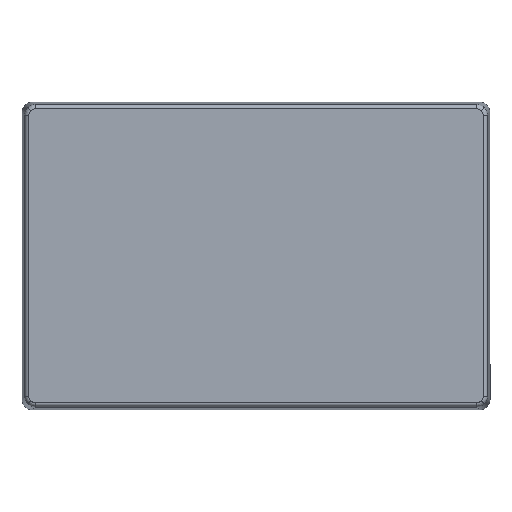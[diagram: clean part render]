
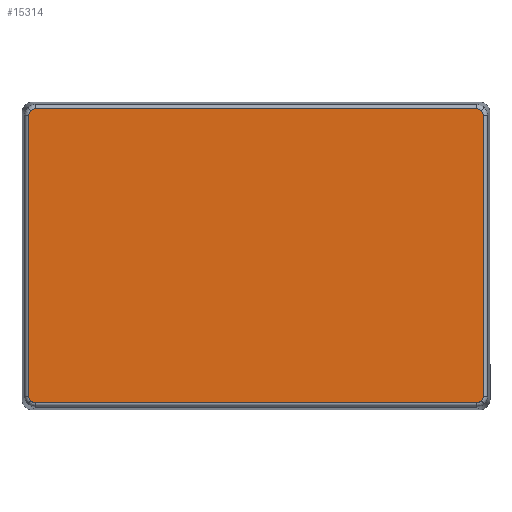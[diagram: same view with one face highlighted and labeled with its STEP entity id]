
A CAD part, top view. The second image highlights one B-rep face of the part: STEP entity #15314.
In plain terms, the highlighted planar face has unit normal (0, 0, 1).
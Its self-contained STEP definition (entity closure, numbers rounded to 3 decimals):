
#547=LINE('',#22787,#1691);
#548=LINE('',#22796,#1692);
#549=LINE('',#22805,#1693);
#550=LINE('',#22814,#1694);
#1691=VECTOR('',#17427,209.434);
#1692=VECTOR('',#17428,133.434);
#1693=VECTOR('',#17429,209.434);
#1694=VECTOR('',#17430,133.434);
#2743=PLANE('',#16267);
#3046=B_SPLINE_CURVE_WITH_KNOTS('',3,(#20478,#20479,#20480,#20481,#20482,
#20483,#20484),.UNSPECIFIED.,.F.,.F.,(4,3,4),(5.498,6.268,
6.283),.UNSPECIFIED.);
#3047=B_SPLINE_CURVE_WITH_KNOTS('',3,(#20513,#20514,#20515,#20516,#20517,
#20518,#20519),.UNSPECIFIED.,.F.,.F.,(4,3,4),(5.498,6.268,
6.283),.UNSPECIFIED.);
#3048=B_SPLINE_CURVE_WITH_KNOTS('',3,(#20548,#20549,#20550,#20551,#20552,
#20553,#20554),.UNSPECIFIED.,.F.,.F.,(4,3,4),(5.498,6.268,
6.283),.UNSPECIFIED.);
#3049=B_SPLINE_CURVE_WITH_KNOTS('',3,(#20583,#20584,#20585,#20586,#20587,
#20588,#20589),.UNSPECIFIED.,.F.,.F.,(4,3,4),(5.498,6.268,
6.283),.UNSPECIFIED.);
#3195=B_SPLINE_CURVE_WITH_KNOTS('',3,(#22789,#22790,#22791,#22792,#22793,
#22794,#22795),.UNSPECIFIED.,.F.,.F.,(4,3,4),(0.,0.769,0.785),
 .UNSPECIFIED.);
#3196=B_SPLINE_CURVE_WITH_KNOTS('',3,(#22798,#22799,#22800,#22801,#22802,
#22803,#22804),.UNSPECIFIED.,.F.,.F.,(4,3,4),(0.,0.769,0.785),
 .UNSPECIFIED.);
#3197=B_SPLINE_CURVE_WITH_KNOTS('',3,(#22807,#22808,#22809,#22810,#22811,
#22812,#22813),.UNSPECIFIED.,.F.,.F.,(4,3,4),(0.,0.769,0.785),
 .UNSPECIFIED.);
#3198=B_SPLINE_CURVE_WITH_KNOTS('',3,(#22815,#22816,#22817,#22818,#22819,
#22820,#22821),.UNSPECIFIED.,.F.,.F.,(4,3,4),(0.,0.769,0.785),
 .UNSPECIFIED.);
#4119=FACE_OUTER_BOUND('',#5065,.T.);
#5065=EDGE_LOOP('',(#10726,#10727,#10728,#10729,#10730,#10731,#10732,#10733,
#10734,#10735,#10736,#10737));
#6502=VERTEX_POINT('',#20475);
#6503=VERTEX_POINT('',#20477);
#6506=VERTEX_POINT('',#20510);
#6507=VERTEX_POINT('',#20512);
#6510=VERTEX_POINT('',#20545);
#6511=VERTEX_POINT('',#20547);
#6514=VERTEX_POINT('',#20580);
#6515=VERTEX_POINT('',#20582);
#6758=VERTEX_POINT('',#22786);
#6759=VERTEX_POINT('',#22788);
#6760=VERTEX_POINT('',#22797);
#6761=VERTEX_POINT('',#22806);
#8071=EDGE_CURVE('',#6503,#6502,#3046,.T.);
#8075=EDGE_CURVE('',#6507,#6506,#3047,.T.);
#8079=EDGE_CURVE('',#6511,#6510,#3048,.T.);
#8083=EDGE_CURVE('',#6515,#6514,#3049,.T.);
#8331=EDGE_CURVE('',#6758,#6503,#547,.T.);
#8332=EDGE_CURVE('',#6502,#6759,#3195,.T.);
#8333=EDGE_CURVE('',#6759,#6507,#548,.T.);
#8334=EDGE_CURVE('',#6506,#6760,#3196,.T.);
#8335=EDGE_CURVE('',#6760,#6515,#549,.T.);
#8336=EDGE_CURVE('',#6514,#6761,#3197,.T.);
#8337=EDGE_CURVE('',#6761,#6511,#550,.T.);
#8338=EDGE_CURVE('',#6510,#6758,#3198,.T.);
#10726=ORIENTED_EDGE('',*,*,#8331,.T.);
#10727=ORIENTED_EDGE('',*,*,#8071,.T.);
#10728=ORIENTED_EDGE('',*,*,#8332,.T.);
#10729=ORIENTED_EDGE('',*,*,#8333,.T.);
#10730=ORIENTED_EDGE('',*,*,#8075,.T.);
#10731=ORIENTED_EDGE('',*,*,#8334,.T.);
#10732=ORIENTED_EDGE('',*,*,#8335,.T.);
#10733=ORIENTED_EDGE('',*,*,#8083,.T.);
#10734=ORIENTED_EDGE('',*,*,#8336,.T.);
#10735=ORIENTED_EDGE('',*,*,#8337,.T.);
#10736=ORIENTED_EDGE('',*,*,#8079,.T.);
#10737=ORIENTED_EDGE('',*,*,#8338,.T.);
#15314=ADVANCED_FACE('',(#4119),#2743,.T.);
#16267=AXIS2_PLACEMENT_3D('',#22785,#17425,#17426);
#17425=DIRECTION('center_axis',(0.,0.,1.));
#17426=DIRECTION('ref_axis',(1.,0.,0.));
#17427=DIRECTION('',(-1.,0.,0.));
#17428=DIRECTION('',(0.,-1.,0.));
#17429=DIRECTION('',(1.,0.,0.));
#17430=DIRECTION('',(0.,1.,0.));
#20475=CARTESIAN_POINT('',(-106.838,68.838,51.));
#20477=CARTESIAN_POINT('',(-104.717,69.716,51.));
#20478=CARTESIAN_POINT('Ctrl Pts',(-104.717,69.716,51.));
#20479=CARTESIAN_POINT('Ctrl Pts',(-105.467,69.716,51.));
#20480=CARTESIAN_POINT('Ctrl Pts',(-106.266,69.393,51.));
#20481=CARTESIAN_POINT('Ctrl Pts',(-106.806,68.87,51.));
#20482=CARTESIAN_POINT('Ctrl Pts',(-106.817,68.859,51.));
#20483=CARTESIAN_POINT('Ctrl Pts',(-106.827,68.849,51.));
#20484=CARTESIAN_POINT('Ctrl Pts',(-106.838,68.838,51.));
#20510=CARTESIAN_POINT('',(-106.838,-68.838,51.));
#20512=CARTESIAN_POINT('',(-107.716,-66.717,51.));
#20513=CARTESIAN_POINT('Ctrl Pts',(-107.716,-66.717,
51.));
#20514=CARTESIAN_POINT('Ctrl Pts',(-107.716,-67.467,
51.));
#20515=CARTESIAN_POINT('Ctrl Pts',(-107.393,-68.266,
51.));
#20516=CARTESIAN_POINT('Ctrl Pts',(-106.87,-68.806,
51.));
#20517=CARTESIAN_POINT('Ctrl Pts',(-106.859,-68.817,
51.));
#20518=CARTESIAN_POINT('Ctrl Pts',(-106.849,-68.827,
51.));
#20519=CARTESIAN_POINT('Ctrl Pts',(-106.838,-68.838,
51.));
#20545=CARTESIAN_POINT('',(106.838,68.838,51.));
#20547=CARTESIAN_POINT('',(107.716,66.717,51.));
#20548=CARTESIAN_POINT('Ctrl Pts',(107.716,66.717,51.));
#20549=CARTESIAN_POINT('Ctrl Pts',(107.716,67.467,51.));
#20550=CARTESIAN_POINT('Ctrl Pts',(107.393,68.266,51.));
#20551=CARTESIAN_POINT('Ctrl Pts',(106.87,68.806,51.));
#20552=CARTESIAN_POINT('Ctrl Pts',(106.859,68.817,51.));
#20553=CARTESIAN_POINT('Ctrl Pts',(106.849,68.827,51.));
#20554=CARTESIAN_POINT('Ctrl Pts',(106.838,68.838,51.));
#20580=CARTESIAN_POINT('',(106.838,-68.838,51.));
#20582=CARTESIAN_POINT('',(104.717,-69.716,51.));
#20583=CARTESIAN_POINT('Ctrl Pts',(104.717,-69.716,51.));
#20584=CARTESIAN_POINT('Ctrl Pts',(105.467,-69.716,51.));
#20585=CARTESIAN_POINT('Ctrl Pts',(106.266,-69.393,51.));
#20586=CARTESIAN_POINT('Ctrl Pts',(106.806,-68.87,51.));
#20587=CARTESIAN_POINT('Ctrl Pts',(106.817,-68.859,51.));
#20588=CARTESIAN_POINT('Ctrl Pts',(106.827,-68.849,51.));
#20589=CARTESIAN_POINT('Ctrl Pts',(106.838,-68.838,51.));
#22785=CARTESIAN_POINT('Origin',(-111.,-73.,51.));
#22786=CARTESIAN_POINT('',(104.717,69.716,51.));
#22787=CARTESIAN_POINT('',(104.717,69.716,51.));
#22788=CARTESIAN_POINT('',(-107.716,66.717,51.));
#22789=CARTESIAN_POINT('Ctrl Pts',(-106.838,68.838,51.));
#22790=CARTESIAN_POINT('Ctrl Pts',(-107.368,68.308,51.));
#22791=CARTESIAN_POINT('Ctrl Pts',(-107.704,67.516,51.));
#22792=CARTESIAN_POINT('Ctrl Pts',(-107.716,66.764,51.));
#22793=CARTESIAN_POINT('Ctrl Pts',(-107.716,66.748,51.));
#22794=CARTESIAN_POINT('Ctrl Pts',(-107.716,66.733,51.));
#22795=CARTESIAN_POINT('Ctrl Pts',(-107.716,66.717,51.));
#22796=CARTESIAN_POINT('',(-107.716,66.717,51.));
#22797=CARTESIAN_POINT('',(-104.717,-69.716,51.));
#22798=CARTESIAN_POINT('Ctrl Pts',(-106.838,-68.838,
51.));
#22799=CARTESIAN_POINT('Ctrl Pts',(-106.308,-69.368,51.));
#22800=CARTESIAN_POINT('Ctrl Pts',(-105.516,-69.704,
51.));
#22801=CARTESIAN_POINT('Ctrl Pts',(-104.764,-69.716,
51.));
#22802=CARTESIAN_POINT('Ctrl Pts',(-104.748,-69.716,
51.));
#22803=CARTESIAN_POINT('Ctrl Pts',(-104.733,-69.716,
51.));
#22804=CARTESIAN_POINT('Ctrl Pts',(-104.717,-69.716,
51.));
#22805=CARTESIAN_POINT('',(-104.717,-69.716,51.));
#22806=CARTESIAN_POINT('',(107.716,-66.717,51.));
#22807=CARTESIAN_POINT('Ctrl Pts',(106.838,-68.838,51.));
#22808=CARTESIAN_POINT('Ctrl Pts',(107.368,-68.308,51.));
#22809=CARTESIAN_POINT('Ctrl Pts',(107.704,-67.516,51.));
#22810=CARTESIAN_POINT('Ctrl Pts',(107.716,-66.764,51.));
#22811=CARTESIAN_POINT('Ctrl Pts',(107.716,-66.748,51.));
#22812=CARTESIAN_POINT('Ctrl Pts',(107.716,-66.733,51.));
#22813=CARTESIAN_POINT('Ctrl Pts',(107.716,-66.717,51.));
#22814=CARTESIAN_POINT('',(107.716,-66.717,51.));
#22815=CARTESIAN_POINT('Ctrl Pts',(106.838,68.838,51.));
#22816=CARTESIAN_POINT('Ctrl Pts',(106.308,69.368,51.));
#22817=CARTESIAN_POINT('Ctrl Pts',(105.516,69.704,51.));
#22818=CARTESIAN_POINT('Ctrl Pts',(104.764,69.716,51.));
#22819=CARTESIAN_POINT('Ctrl Pts',(104.748,69.716,51.));
#22820=CARTESIAN_POINT('Ctrl Pts',(104.733,69.716,51.));
#22821=CARTESIAN_POINT('Ctrl Pts',(104.717,69.716,51.));
